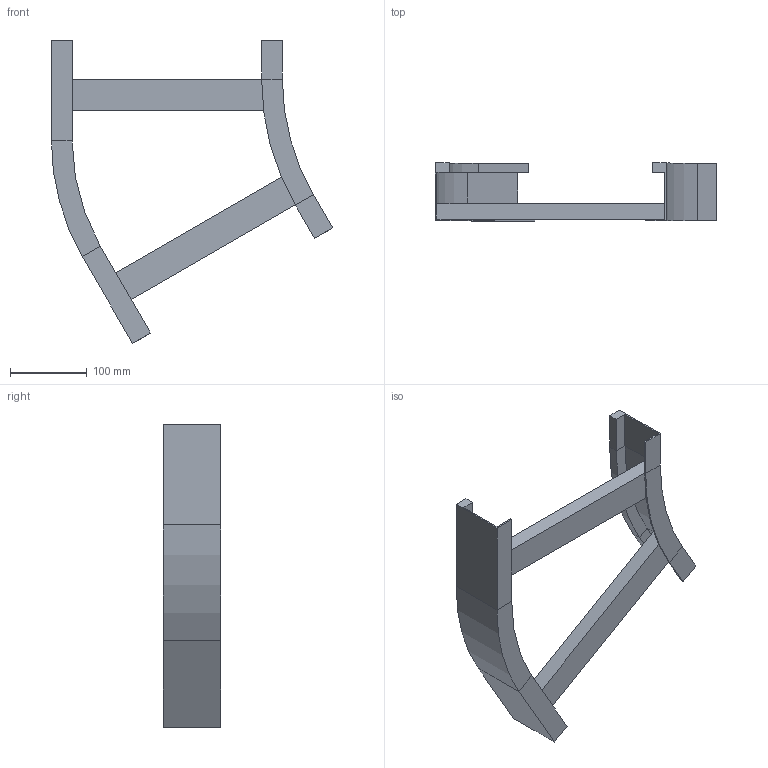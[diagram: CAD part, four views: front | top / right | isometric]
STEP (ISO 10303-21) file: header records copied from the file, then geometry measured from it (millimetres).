
FILE_DESCRIPTION (( 'STEP AP214' ), '1' );
FILE_NAME ('B2_12B3C300.step', '2025-02-21T15:11:10', ( '' ), ( '' ), 'SwSTEP 2.0', 'SolidWorks 2023', '' );
FILE_SCHEMA (( 'AUTOMOTIVE_DESIGN' ));
Length unit declared in the file: millimetre
Products named in the file (4): B2_LONGH.ESTERNO 30°_H75_R300+300; B2_LONGH.INTERNO 30°_H75_R300; B2_12B3C300; TRAVERSINO_300
Assembly tree (4 placements, depth 2):
  B2_12B3C300
    B2_LONGH.INTERNO 30°_H75_R300
    B2_LONGH.ESTERNO 30°_H75_R300+300
    TRAVERSINO_300  x2
Bounding box: 365.19 x 75 x 393.3 mm (x, y, z)
Volume: 744092.1 mm3; surface area: 235723.2 mm2
Topology: 4 solids, 4 shells, 64 faces, 136 edges, 80 vertices
Faces by surface type: plane 56, cylinder 8
Entity records: 1637 total; most frequent: DIRECTION 270, CARTESIAN_POINT 261, ORIENTED_EDGE 248, EDGE_CURVE 124, VECTOR 108, LINE 108, AXIS2_PLACEMENT_3D 81, VERTEX_POINT 72
